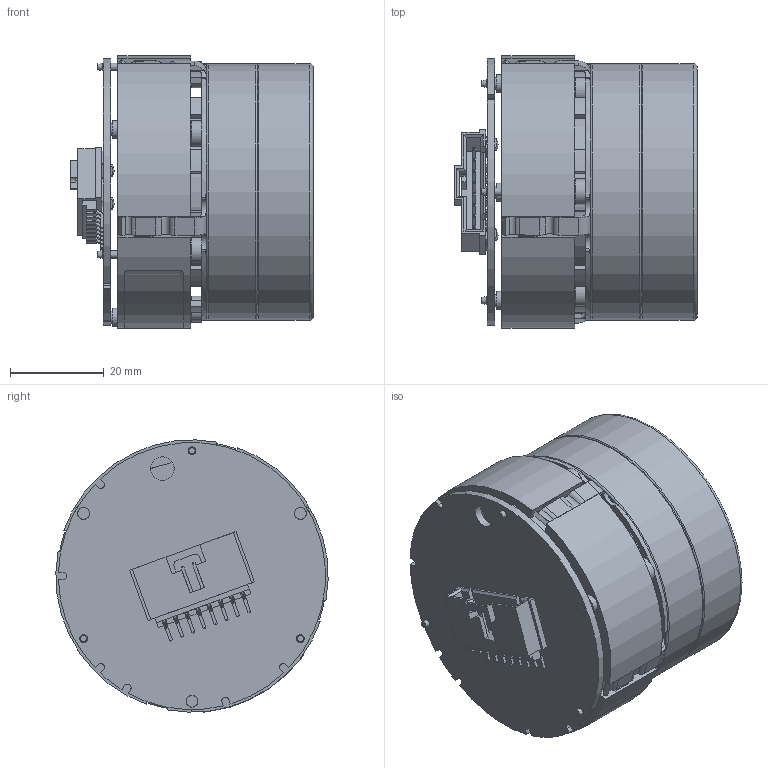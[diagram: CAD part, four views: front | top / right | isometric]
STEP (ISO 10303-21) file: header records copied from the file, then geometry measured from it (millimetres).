
FILE_DESCRIPTION (( 'STEP AP214' ), '1' );
FILE_NAME ('PD01-PM-00A.STEP', '2017-03-03T20:55:35', ( '' ), ( '' ), 'SwSTEP 2.0', 'SolidWorks 2015', '' );
FILE_SCHEMA (( 'AUTOMOTIVE_DESIGN' ));
Length unit declared in the file: millimetre
Products named in the file (20): Mol^PD01-MA-00A; Lam^PD01-MA-00A; PD01-PU-00; PD01-PM-00A; MB0112; PD01-SC-00; PD01-EP-00; PD01-BO-00; PD01-BB-00; PD01-CU-00; PD01-MA-00A; Label^PD01-MA-00A; Connector^PD01-MA-00A; Pins^PD01-MA-00A; PCB^PD01-MA-00A
Assembly tree (21 placements, depth 4):
  PD01-PM-00A
    PD01-MA-00A
      Lam^PD01-MA-00A
      Mol^PD01-MA-00A
      PCB^PD01-MA-00A
      Pins^PD01-MA-00A  x3
      Connector^PD01-MA-00A
      Label^PD01-MA-00A
    PD01-PU-00
      PD01-SC-00
      PD01-CU-00
      PD01-BO-00
        PD01-BB-00
      PD01-EP-00
      PD01-SC-00
      PD01-SC-00
      PD01-SC-00
      PD01-SC-00
      PD01-SC-00
      MB0112
Bounding box: 51.79 x 58.08 x 58.08 mm (x, y, z)
Volume: 85652 mm3; surface area: 49626.6 mm2
Topology: 18 solids, 18 shells, 1168 faces, 3211 edges, 2109 vertices
Faces by surface type: plane 702, cylinder 420, torus 29, cone 15, bspline 2
Full cylindrical faces by diameter (mm): 1.6 x15, 1.7 x3, 2.4 x6, 2.5 x3, 2.55 x3, 3.3 x8, 3.4 x2, 3.8 x3, 5 x1, 5.5 x6, 6 x2, 8.4 x2, 26 x1, 36.1 x1, 38 x1, 42.7 x2, 49.1 x1, 54.8 x2
Entity records: 39297 total; most frequent: CARTESIAN_POINT 6736, DIRECTION 6231, ORIENTED_EDGE 6096, EDGE_CURVE 3048, LINE 2115, VECTOR 2115, AXIS2_PLACEMENT_3D 2058, VERTEX_POINT 2055
